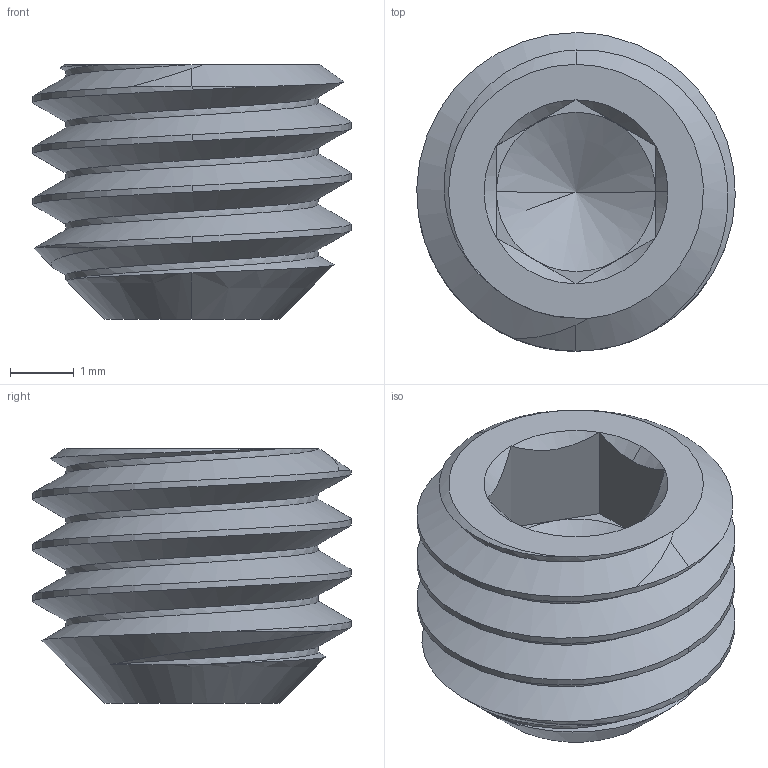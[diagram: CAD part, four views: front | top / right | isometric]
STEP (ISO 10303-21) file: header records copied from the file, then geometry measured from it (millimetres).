
FILE_DESCRIPTION (( 'STEP AP203' ), '1' );
FILE_NAME ('2806-0004-0004.STEP', '2017-04-05T21:01:26', ( '' ), ( '' ), 'SwSTEP 2.0', 'SolidWorks 2016', '' );
FILE_SCHEMA (( 'CONFIG_CONTROL_DESIGN' ));
Length unit declared in the file: millimetre
Products named in the file (1): 2806-0004-0004
Bounding box: 5 x 5 x 4 mm (x, y, z)
Volume: 46.7 mm3; surface area: 123.7 mm2
Topology: 1 solids, 1 shells, 40 faces, 94 edges, 53 vertices
Faces by surface type: cone 16, plane 13, cylinder 8, bspline 3
Entity records: 2074 total; most frequent: CARTESIAN_POINT 1196, ORIENTED_EDGE 180, DIRECTION 150, EDGE_CURVE 90, AXIS2_PLACEMENT_3D 58, VERTEX_POINT 53, EDGE_LOOP 41, FACE_OUTER_BOUND 40
